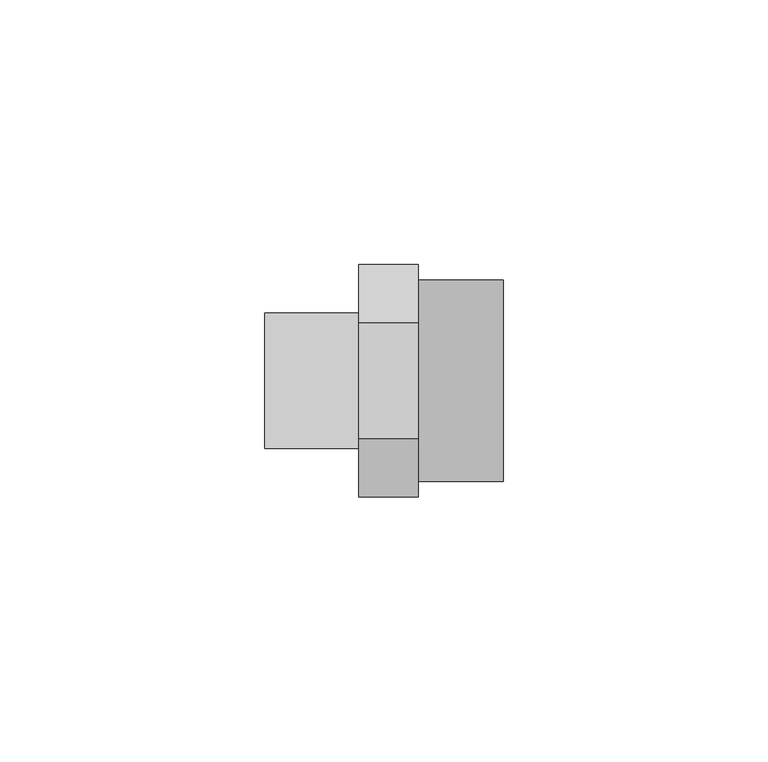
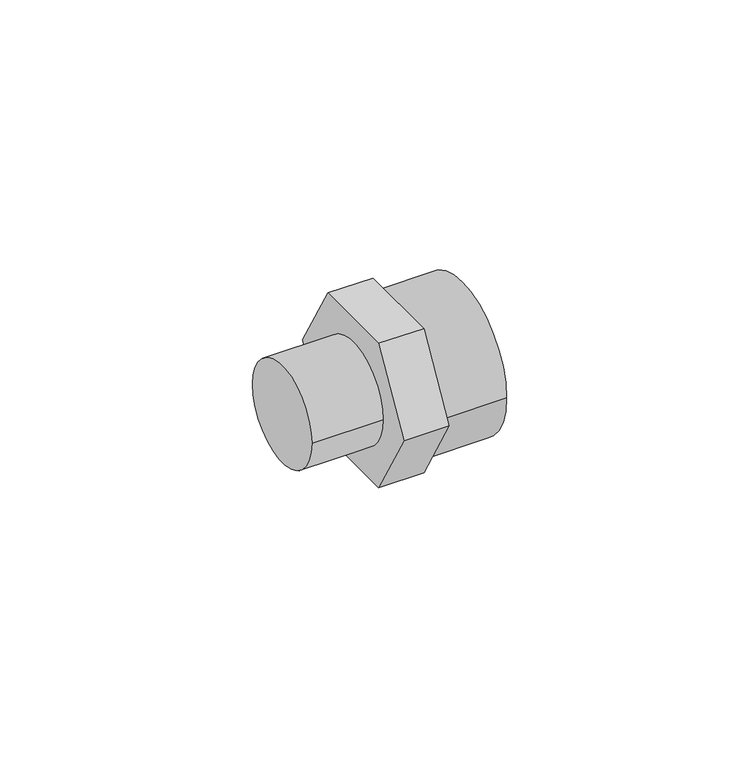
"""IFC4 building model written with IfcOpenShell, lengths in millimetres: pipe fitting geometry."""

from ifc_helpers import new_model, si_unit, point, frame, origin, origin_2d, place, context, project, spatial, polyline, circle_curve, trimmed, segment, composite_curve, outline, extrude, source, transform, mapped, element, save


def pipe_fitting_9ddd0f05(model_context):
    return source(origin(), model_context, "Body", "SweptSolid", [
        extrude(outline(composite_curve([segment(trimmed(circle_curve(origin_2d(), 12.8), [point((12.8, 0.0))], [point((-12.8, 0.0))], False, "CARTESIAN"), True, "CONTINUOUS"), segment(trimmed(circle_curve(origin_2d(), 12.8), [point((-12.8, 0.0))], [point((12.8, 0.0))], False, "CARTESIAN"), True, "CONTINUOUS")], self_intersect=False)), frame((0.0, 0.0, 0.0), z_axis=(1.0, 0.0, 0.0), x_axis=(0.0, 1.0, 0.0)), (0.0, 0.0, 1.0), 17.75),
        extrude(outline(polyline([(-10.9696551, 19.0), (10.9696551, 19.0), (21.9393102, 0.0), (10.9696551, -19.0), (-10.9696551, -19.0), (-21.9393102, 0.0), (-10.9696551, 19.0)])), frame((17.75, 0.0, 0.0), z_axis=(1.0, 0.0, 0.0), x_axis=(0.0, 1.0, 0.0)), (0.0, 0.0, 1.0), 11.25),
        extrude(outline(composite_curve([segment(trimmed(circle_curve(origin_2d(), 19.0), [point((-19.0, 0.0))], [point((19.0, 0.0))], False, "CARTESIAN"), True, "CONTINUOUS"), segment(trimmed(circle_curve(origin_2d(), 19.0), [point((19.0, 0.0))], [point((-19.0, 0.0))], False, "CARTESIAN"), True, "CONTINUOUS")], self_intersect=False)), frame((29.0, 0.0, 0.0), z_axis=(1.0, 0.0, 0.0), x_axis=(0.0, 1.0, 0.0)), (0.0, 0.0, 1.0), 16.0),
    ])


if __name__ == "__main__":
    model = new_model("IFC4")
    model_context = context("Model", 3, world=origin())
    ifc_project = project(units=[si_unit("LENGTHUNIT", "METRE", prefix="MILLI")], contexts=[model_context])
    site = spatial("IfcSite", under=ifc_project)
    building = spatial("IfcBuilding", under=site)
    placement = place(None, origin())
    pipe_fitting_shape = pipe_fitting_9ddd0f05(model_context)
    element("IfcPipeFitting", 1, at=placement, inside=building, context=model_context, shape_type="MappedRepresentation", body=[
        mapped(pipe_fitting_shape, transform((0.0, 0.0, 0.0), x_axis=(1.0, 0.0, 0.0), y_axis=(0.0, 1.0, 0.0), z_axis=(0.0, 0.0, 1.0))),
    ])
    save(model, "model.ifc")
